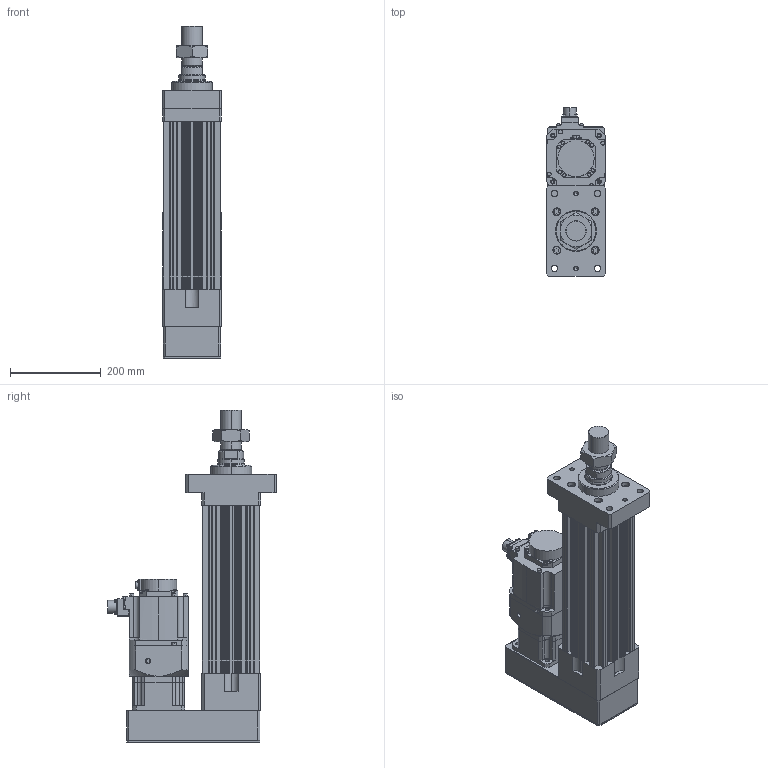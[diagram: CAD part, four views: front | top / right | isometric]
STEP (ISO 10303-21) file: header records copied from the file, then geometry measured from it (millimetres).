
FILE_DESCRIPTION (( 'STEP AP203' ), '1' );
FILE_NAME ('HES130NS(FS)(HS)-P150-W015G00-M-FMB.STEP', '2023-01-29T05:14:50', ( 'tms' ), ( '' ), 'SwSTEP 2.0', 'SolidWorks 2013', '' );
FILE_SCHEMA (( 'CONFIG_CONTROL_DESIGN' ));
Length unit declared in the file: millimetre
Products named in the file (8): HES130 ROD M ST150; M45X1.5P; HES130-P150-G120-FMB; HG-SR152; P0401400706; AB1151; HES130NS(FS)(HS)-P150-W015G00-M-FMB; AB115-003[HG-SR152]
Assembly tree (7 placements, depth 3):
  HES130NS(FS)(HS)-P150-W015G00-M-FMB
    HES130-P150-G120-FMB
    HES130 ROD M ST150
    M45X1.5P
    AB115-003[HG-SR152]
      AB1151
      P0401400706
    HG-SR152
Bounding box: 130 x 372.49 x 732 mm (x, y, z)
Volume: 9632033.8 mm3; surface area: 1064170.1 mm2
Topology: 4 solids, 11 shells, 1082 faces, 2768 edges, 1799 vertices
Faces by surface type: cylinder 513, plane 489, cone 68, bspline 8, torus 4
Entity records: 34626 total; most frequent: CARTESIAN_POINT 6632, DIRECTION 5993, ORIENTED_EDGE 5484, EDGE_CURVE 2752, AXIS2_PLACEMENT_3D 2228, VERTEX_POINT 1799, VECTOR 1537, LINE 1537
